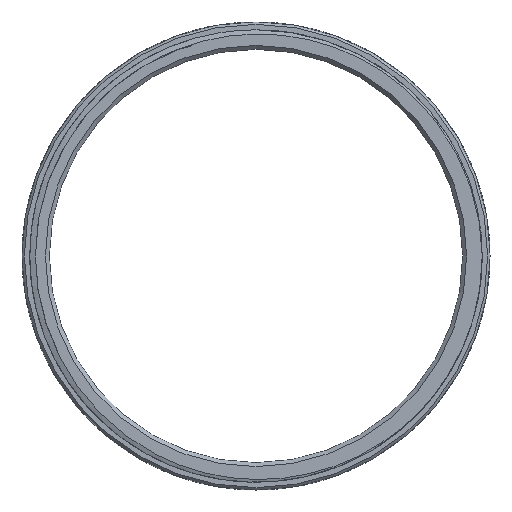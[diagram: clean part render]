
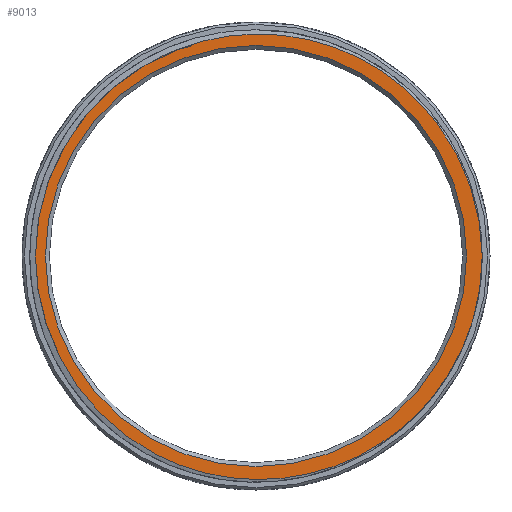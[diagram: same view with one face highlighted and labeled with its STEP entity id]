
A CAD part, front view. The second image highlights one B-rep face of the part: STEP entity #9013.
In plain terms, the highlighted planar face has unit normal (0, -1, 0).
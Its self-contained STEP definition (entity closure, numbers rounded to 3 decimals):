
#27=FACE_BOUND('',#1487,.T.);
#35=PLANE('',#10607);
#790=B_SPLINE_CURVE_WITH_KNOTS('',3,(#17071,#17072,#17073,#17074,#17075,
#17076,#17077,#17078,#17079,#17080,#17081,#17082,#17083,#17084,#17085,#17086),
 .UNSPECIFIED.,.F.,.F.,(4,2,2,2,2,2,2,4),(0.,0.485,0.952,
1.883,3.029,4.147,5.123,6.052),
 .UNSPECIFIED.);
#791=B_SPLINE_CURVE_WITH_KNOTS('',3,(#17089,#17090,#17091,#17092,#17093,
#17094,#17095,#17096,#17097,#17098,#17099,#17100,#17101,#17102,#17103,#17104,
#17105,#17106,#17107,#17108),.UNSPECIFIED.,.F.,.F.,(4,2,2,2,2,2,2,2,2,4),
(0.,0.727,0.981,1.958,3.026,
3.306,4.396,5.22,5.651,6.071),
 .UNSPECIFIED.);
#948=FACE_OUTER_BOUND('',#1486,.T.);
#1486=EDGE_LOOP('',(#7071,#7072,#7073,#7074,#7075));
#1487=EDGE_LOOP('',(#7076));
#1891=CIRCLE('',#9491,28.279);
#1903=CIRCLE('',#9517,27.);
#2031=CIRCLE('',#9892,29.);
#2627=CIRCLE('',#10608,28.279);
#3501=VERTEX_POINT('',#14541);
#3503=VERTEX_POINT('',#14544);
#3542=VERTEX_POINT('',#15120);
#3910=VERTEX_POINT('',#15941);
#3911=VERTEX_POINT('',#15970);
#4270=VERTEX_POINT('',#17087);
#4440=EDGE_CURVE('',#3503,#3501,#1891,.T.);
#4490=EDGE_CURVE('',#3542,#3542,#1903,.T.);
#4866=EDGE_CURVE('',#3910,#3911,#2031,.T.);
#5463=EDGE_CURVE('',#3910,#3503,#790,.T.);
#5464=EDGE_CURVE('',#3501,#4270,#2627,.T.);
#5465=EDGE_CURVE('',#4270,#3911,#791,.T.);
#7071=ORIENTED_EDGE('',*,*,#4866,.F.);
#7072=ORIENTED_EDGE('',*,*,#5463,.T.);
#7073=ORIENTED_EDGE('',*,*,#4440,.T.);
#7074=ORIENTED_EDGE('',*,*,#5464,.T.);
#7075=ORIENTED_EDGE('',*,*,#5465,.T.);
#7076=ORIENTED_EDGE('',*,*,#4490,.T.);
#9013=ADVANCED_FACE('',(#948,#27),#35,.F.);
#9491=AXIS2_PLACEMENT_3D('',#14545,#11047,#11048);
#9517=AXIS2_PLACEMENT_3D('',#15122,#11113,#11114);
#9892=AXIS2_PLACEMENT_3D('',#15971,#11868,#11869);
#10607=AXIS2_PLACEMENT_3D('',#17070,#13298,#13299);
#10608=AXIS2_PLACEMENT_3D('',#17088,#13300,#13301);
#11047=DIRECTION('center_axis',(0.,-1.,0.));
#11048=DIRECTION('ref_axis',(-0.891,0.,-0.454));
#11113=DIRECTION('center_axis',(0.,1.,0.));
#11114=DIRECTION('ref_axis',(0.,0.,1.));
#11868=DIRECTION('center_axis',(0.,1.,0.));
#11869=DIRECTION('ref_axis',(0.,0.,1.));
#13298=DIRECTION('center_axis',(0.,1.,0.));
#13299=DIRECTION('ref_axis',(0.,0.,1.));
#13300=DIRECTION('center_axis',(0.,-1.,0.));
#13301=DIRECTION('ref_axis',(-0.891,0.,-0.454));
#14541=CARTESIAN_POINT('',(-28.279,0.,0.));
#14544=CARTESIAN_POINT('',(-14.233,0.,24.437));
#14545=CARTESIAN_POINT('Origin',(0.,0.,
0.));
#15120=CARTESIAN_POINT('',(0.,0.,
27.));
#15122=CARTESIAN_POINT('Origin',(0.,0.,0.));
#15941=CARTESIAN_POINT('',(29.,0.,0.));
#15970=CARTESIAN_POINT('',(24.515,0.,-15.492));
#15971=CARTESIAN_POINT('Origin',(0.,0.,0.));
#17070=CARTESIAN_POINT('Origin',(0.,0.,0.));
#17071=CARTESIAN_POINT('Ctrl Pts',(29.,0.,
0.));
#17072=CARTESIAN_POINT('Ctrl Pts',(28.982,0.,
1.617));
#17073=CARTESIAN_POINT('Ctrl Pts',(28.829,0.,
3.213));
#17074=CARTESIAN_POINT('Ctrl Pts',(28.27,0.,
6.316));
#17075=CARTESIAN_POINT('Ctrl Pts',(27.874,0.,
7.813));
#17076=CARTESIAN_POINT('Ctrl Pts',(26.337,0.,
12.176));
#17077=CARTESIAN_POINT('Ctrl Pts',(24.855,0.,
14.897));
#17078=CARTESIAN_POINT('Ctrl Pts',(20.649,0.,
20.336));
#17079=CARTESIAN_POINT('Ctrl Pts',(17.754,0.,
22.855));
#17080=CARTESIAN_POINT('Ctrl Pts',(11.22,0.,
26.566));
#17081=CARTESIAN_POINT('Ctrl Pts',(7.669,0.,
27.752));
#17082=CARTESIAN_POINT('Ctrl Pts',(0.78,0.,
28.642));
#17083=CARTESIAN_POINT('Ctrl Pts',(-2.485,0.,
28.51));
#17084=CARTESIAN_POINT('Ctrl Pts',(-8.682,0.,
27.171));
#17085=CARTESIAN_POINT('Ctrl Pts',(-11.578,0.,
26.027));
#17086=CARTESIAN_POINT('Ctrl Pts',(-14.233,0.,
24.437));
#17087=CARTESIAN_POINT('',(-25.199,0.,-12.835));
#17088=CARTESIAN_POINT('Origin',(0.,0.,
0.));
#17089=CARTESIAN_POINT('Ctrl Pts',(-25.199,0.,
-12.835));
#17090=CARTESIAN_POINT('Ctrl Pts',(-24.125,0.,
-15.009));
#17091=CARTESIAN_POINT('Ctrl Pts',(-22.776,0.,
-17.036));
#17092=CARTESIAN_POINT('Ctrl Pts',(-20.63,0.,
-19.503));
#17093=CARTESIAN_POINT('Ctrl Pts',(-20.047,0.,
-20.116));
#17094=CARTESIAN_POINT('Ctrl Pts',(-17.098,0.,
-22.95));
#17095=CARTESIAN_POINT('Ctrl Pts',(-14.389,0.,
-24.784));
#17096=CARTESIAN_POINT('Ctrl Pts',(-8.196,0.,
-27.586));
#17097=CARTESIAN_POINT('Ctrl Pts',(-4.716,0.,
-28.432));
#17098=CARTESIAN_POINT('Ctrl Pts',(-0.239,0.,
-28.667));
#17099=CARTESIAN_POINT('Ctrl Pts',(0.694,0.,
-28.67));
#17100=CARTESIAN_POINT('Ctrl Pts',(5.23,0.,
-28.466));
#17101=CARTESIAN_POINT('Ctrl Pts',(8.775,0.,-27.626));
#17102=CARTESIAN_POINT('Ctrl Pts',(14.565,0.,-25.039));
#17103=CARTESIAN_POINT('Ctrl Pts',(16.887,0.,
-23.575));
#17104=CARTESIAN_POINT('Ctrl Pts',(20.058,0.,
-20.881));
#17105=CARTESIAN_POINT('Ctrl Pts',(21.078,0.,
-19.874));
#17106=CARTESIAN_POINT('Ctrl Pts',(22.926,0.,
-17.759));
#17107=CARTESIAN_POINT('Ctrl Pts',(23.762,0.,
-16.653));
#17108=CARTESIAN_POINT('Ctrl Pts',(24.515,0.,
-15.492));
